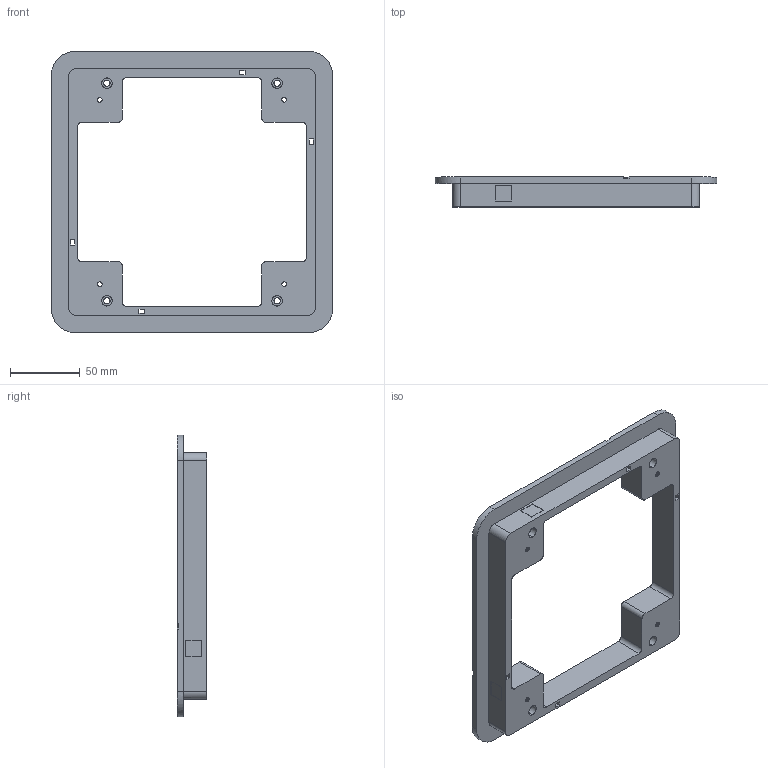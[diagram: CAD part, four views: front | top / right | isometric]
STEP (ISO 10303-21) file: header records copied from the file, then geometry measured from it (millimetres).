
FILE_DESCRIPTION (( 'STEP AP214' ), '1' );
FILE_NAME ('cnc_m4thread_20261008_face_ym.STEP', '2026-10-14T06:10:01', ( '' ), ( '' ), 'SwSTEP 2.0', 'SolidWorks 2024', '' );
FILE_SCHEMA (( 'AUTOMOTIVE_DESIGN' ));
Length unit declared in the file: millimetre
Products named in the file (1): cnc_m4thread_20261008_face_ym
Bounding box: 202 x 21.2 x 202 mm (x, y, z)
Volume: 216464.6 mm3; surface area: 68227.7 mm2
Topology: 1 solids, 1 shells, 367 faces, 1072 edges, 712 vertices
Faces by surface type: bspline 367
Entity records: 33325 total; most frequent: CARTESIAN_POINT 27549, ORIENTED_EDGE 2144, EDGE_CURVE 1072, VERTEX_POINT 712, B_SPLINE_CURVE_WITH_KNOTS 584, EDGE_LOOP 398, ADVANCED_FACE 367, FACE_OUTER_BOUND 367
